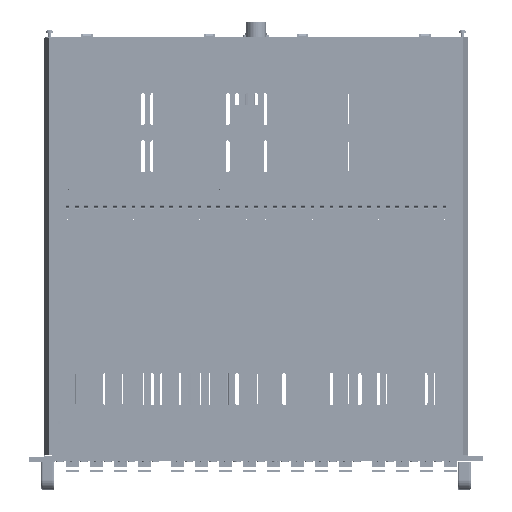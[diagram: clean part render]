
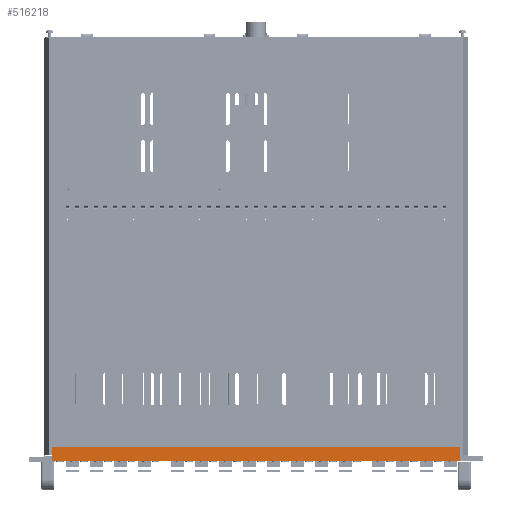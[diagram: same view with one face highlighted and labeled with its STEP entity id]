
A CAD part, front view. The second image highlights one B-rep face of the part: STEP entity #516218.
In plain terms, the highlighted planar face has unit normal (0, -1, 0).
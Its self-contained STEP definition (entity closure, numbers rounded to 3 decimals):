
#43139 = LINE ( 'NONE', #65582, #199190 ) ;
#61816 = VERTEX_POINT ( 'NONE', #84991 ) ;
#62796 = LINE ( 'NONE', #84113, #456565 ) ;
#65582 = CARTESIAN_POINT ( 'NONE',  ( -463.203, -64.569, 161.25 ) ) ;
#78417 = CARTESIAN_POINT ( 'NONE',  ( -463.203, -64.569, 146.45 ) ) ;
#84113 = CARTESIAN_POINT ( 'NONE',  ( -463.203, -64.569, 161.25 ) ) ;
#84991 = CARTESIAN_POINT ( 'NONE',  ( -463.203, -64.569, 161.25 ) ) ;
#87671 = VERTEX_POINT ( 'NONE', #494227 ) ;
#88790 = DIRECTION ( 'NONE',  ( 0., 1., 0. ) ) ;
#94371 = VECTOR ( 'NONE', #476550, 1000. ) ;
#94418 = CARTESIAN_POINT ( 'NONE',  ( -31.203, -64.569, 161.25 ) ) ;
#95664 = ORIENTED_EDGE ( 'NONE', *, *, #432486, .F. ) ;
#101597 = ORIENTED_EDGE ( 'NONE', *, *, #244700, .F. ) ;
#149890 = DIRECTION ( 'NONE',  ( 0., 0., 1. ) ) ;
#150178 = EDGE_CURVE ( 'NONE', #428937, #87671, #200314, .T. ) ;
#161963 = DIRECTION ( 'NONE',  ( 0., 0., -1. ) ) ;
#168193 = LINE ( 'NONE', #94418, #330524 ) ;
#199190 = VECTOR ( 'NONE', #257426, 1000. ) ;
#199236 = FACE_OUTER_BOUND ( 'NONE', #294388, .T. ) ;
#200314 = LINE ( 'NONE', #78417, #94371 ) ;
#200888 = DIRECTION ( 'NONE',  ( 0., 0., 1. ) ) ;
#208995 = ORIENTED_EDGE ( 'NONE', *, *, #237786, .T. ) ;
#237786 = EDGE_CURVE ( 'NONE', #87671, #290263, #168193, .T. ) ;
#244700 = EDGE_CURVE ( 'NONE', #428937, #61816, #62796, .T. ) ;
#257426 = DIRECTION ( 'NONE',  ( 1., 0., 0. ) ) ;
#290263 = VERTEX_POINT ( 'NONE', #494592 ) ;
#294388 = EDGE_LOOP ( 'NONE', ( #208995, #95664, #101597, #502611 ) ) ;
#295969 = AXIS2_PLACEMENT_3D ( 'NONE', #486893, #88790, #161963 ) ;
#330524 = VECTOR ( 'NONE', #149890, 1000. ) ;
#361728 = CARTESIAN_POINT ( 'NONE',  ( -463.203, -64.569, 146.45 ) ) ;
#401387 = PLANE ( 'NONE',  #295969 ) ;
#428937 = VERTEX_POINT ( 'NONE', #361728 ) ;
#432486 = EDGE_CURVE ( 'NONE', #61816, #290263, #43139, .T. ) ;
#456565 = VECTOR ( 'NONE', #200888, 1000. ) ;
#476550 = DIRECTION ( 'NONE',  ( 1., 0., 0. ) ) ;
#486893 = CARTESIAN_POINT ( 'NONE',  ( -463.203, -64.569, 161.25 ) ) ;
#494227 = CARTESIAN_POINT ( 'NONE',  ( -31.203, -64.569, 146.45 ) ) ;
#494592 = CARTESIAN_POINT ( 'NONE',  ( -31.203, -64.569, 161.25 ) ) ;
#502611 = ORIENTED_EDGE ( 'NONE', *, *, #150178, .T. ) ;
#516218 = ADVANCED_FACE ( 'NONE', ( #199236 ), #401387, .F. ) ;
